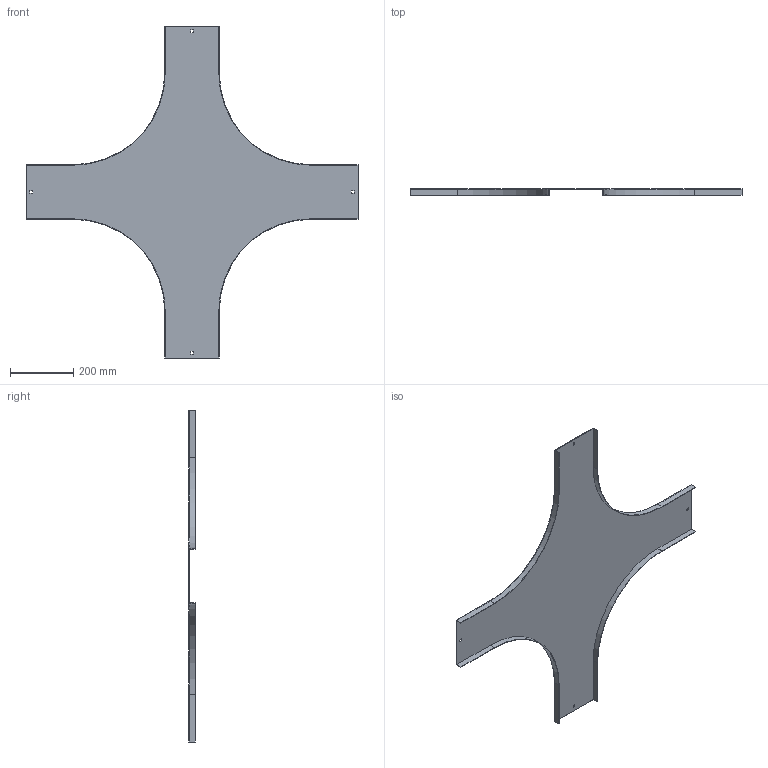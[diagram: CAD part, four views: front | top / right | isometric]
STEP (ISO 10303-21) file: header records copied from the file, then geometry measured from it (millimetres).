
FILE_DESCRIPTION (( 'STEP AP214' ), '1' );
FILE_NAME ('17N3P150.step', '2025-02-21T13:56:52', ( '' ), ( '' ), 'SwSTEP 2.0', 'SolidWorks 2023', '' );
FILE_SCHEMA (( 'AUTOMOTIVE_DESIGN' ));
Length unit declared in the file: millimetre
Products named in the file (1): 17N3P150
Bounding box: 1050 x 20 x 1050 mm (x, y, z)
Volume: 690609.4 mm3; surface area: 926777.6 mm2
Topology: 1 solids, 1 shells, 50 faces, 144 edges, 96 vertices
Faces by surface type: plane 42, cylinder 8
Entity records: 1663 total; most frequent: CARTESIAN_POINT 291, ORIENTED_EDGE 288, DIRECTION 262, EDGE_CURVE 144, LINE 128, VECTOR 128, VERTEX_POINT 96, AXIS2_PLACEMENT_3D 67
